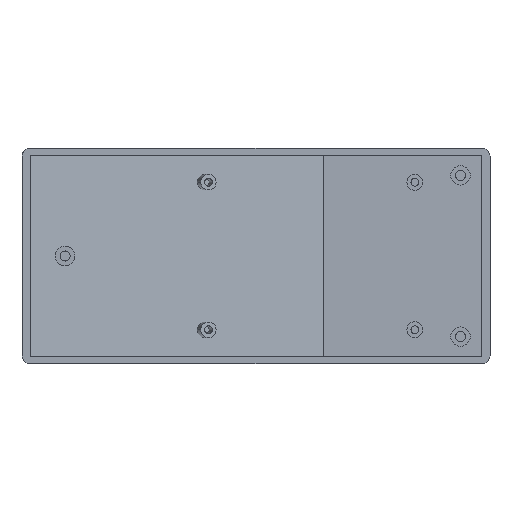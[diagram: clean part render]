
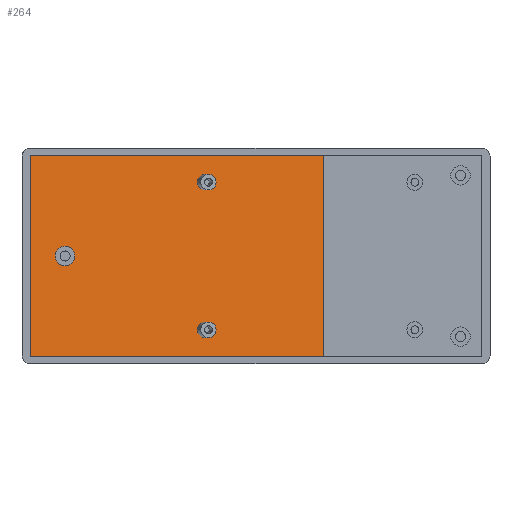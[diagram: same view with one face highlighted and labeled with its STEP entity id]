
A CAD part, front view. The second image highlights one B-rep face of the part: STEP entity #264.
In plain terms, the highlighted planar face has unit normal (0.199, -0.98, 0).
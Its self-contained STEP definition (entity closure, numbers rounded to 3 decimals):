
#53 = AXIS2_PLACEMENT_3D ( 'NONE', #251, #245, #243 ) ;
#113 = VERTEX_POINT ( 'NONE', #1800 ) ;
#128 = EDGE_LOOP ( 'NONE', ( #2285, #958, #2227, #527 ) ) ;
#150 = EDGE_CURVE ( 'NONE', #1053, #1627, #826, .T. ) ;
#164 = VERTEX_POINT ( 'NONE', #1945 ) ;
#167 = CARTESIAN_POINT ( 'NONE',  ( -51.65, -1.003, 0. ) ) ;
#193 = EDGE_LOOP ( 'NONE', ( #660, #1420 ) ) ;
#208 = CARTESIAN_POINT ( 'NONE',  ( -15.097, 6.4, -19. ) ) ;
#243 = DIRECTION ( 'NONE',  ( -0.98, -0.199, 0. ) ) ;
#245 = DIRECTION ( 'NONE',  ( 0.199, -0.98, 0. ) ) ;
#251 = CARTESIAN_POINT ( 'NONE',  ( -13.136, 6.797, 19. ) ) ;
#264 = ADVANCED_FACE ( 'NONE', ( #1460, #1525, #1396, #1356 ), #1723, .F. ) ;
#367 = CIRCLE ( 'NONE', #53, 2. ) ;
#383 = ORIENTED_EDGE ( 'NONE', *, *, #1216, .F. ) ;
#394 = EDGE_CURVE ( 'NONE', #714, #673, #732, .T. ) ;
#395 = CARTESIAN_POINT ( 'NONE',  ( -15.097, 6.4, 19. ) ) ;
#407 = VECTOR ( 'NONE', #992, 1000. ) ;
#412 = AXIS2_PLACEMENT_3D ( 'NONE', #476, #479, #468 ) ;
#422 = VECTOR ( 'NONE', #2095, 1000. ) ;
#447 = ORIENTED_EDGE ( 'NONE', *, *, #896, .F. ) ;
#466 = LINE ( 'NONE', #979, #407 ) ;
#468 = DIRECTION ( 'NONE',  ( -0.98, -0.199, 0. ) ) ;
#476 = CARTESIAN_POINT ( 'NONE',  ( -13.136, 6.797, 19. ) ) ;
#479 = DIRECTION ( 'NONE',  ( 0.199, -0.98, 0. ) ) ;
#493 = EDGE_LOOP ( 'NONE', ( #383, #1666 ) ) ;
#527 = ORIENTED_EDGE ( 'NONE', *, *, #1933, .T. ) ;
#552 = EDGE_LOOP ( 'NONE', ( #1484, #447 ) ) ;
#602 = DIRECTION ( 'NONE',  ( -0.98, -0.199, 0. ) ) ;
#604 = CARTESIAN_POINT ( 'NONE',  ( -58.1, -2.309, -26. ) ) ;
#660 = ORIENTED_EDGE ( 'NONE', *, *, #1767, .F. ) ;
#662 = VECTOR ( 'NONE', #1427, 1000. ) ;
#673 = VERTEX_POINT ( 'NONE', #937 ) ;
#714 = VERTEX_POINT ( 'NONE', #814 ) ;
#724 = VERTEX_POINT ( 'NONE', #799 ) ;
#732 = LINE ( 'NONE', #1432, #662 ) ;
#799 = CARTESIAN_POINT ( 'NONE',  ( 17.489, 13., -26. ) ) ;
#814 = CARTESIAN_POINT ( 'NONE',  ( -58.1, -2.309, -26. ) ) ;
#826 =( BOUNDED_CURVE ( )  B_SPLINE_CURVE ( 3, ( #1828, #1834, #2037, #1952 ),
 .UNSPECIFIED., .F., .T. ) 
 B_SPLINE_CURVE_WITH_KNOTS ( ( 4, 4 ),
 ( 0., 3.142 ),
 .UNSPECIFIED. ) 
 CURVE ( )  GEOMETRIC_REPRESENTATION_ITEM ( )  RATIONAL_B_SPLINE_CURVE ( ( 1., 0.333, 0.333, 1. ) ) 
 REPRESENTATION_ITEM ( '' )  );
#836 = EDGE_CURVE ( 'NONE', #724, #714, #1831, .T. ) ;
#896 = EDGE_CURVE ( 'NONE', #945, #164, #1648, .T. ) ;
#937 = CARTESIAN_POINT ( 'NONE',  ( -58.1, -2.309, 26. ) ) ;
#945 = VERTEX_POINT ( 'NONE', #395 ) ;
#958 = ORIENTED_EDGE ( 'NONE', *, *, #394, .F. ) ;
#979 = CARTESIAN_POINT ( 'NONE',  ( 17.489, 13., -26. ) ) ;
#992 = DIRECTION ( 'NONE',  ( 0., 0., 1. ) ) ;
#1011 = EDGE_CURVE ( 'NONE', #164, #945, #367, .T. ) ;
#1046 = VERTEX_POINT ( 'NONE', #208 ) ;
#1053 = VERTEX_POINT ( 'NONE', #167 ) ;
#1184 =( BOUNDED_CURVE ( )  B_SPLINE_CURVE ( 3, ( #1218, #1220, #1206, #1205 ),
 .UNSPECIFIED., .F., .T. ) 
 B_SPLINE_CURVE_WITH_KNOTS ( ( 4, 4 ),
 ( 3.142, 6.283 ),
 .UNSPECIFIED. ) 
 CURVE ( )  GEOMETRIC_REPRESENTATION_ITEM ( )  RATIONAL_B_SPLINE_CURVE ( ( 1., 0.333, 0.333, 1. ) ) 
 REPRESENTATION_ITEM ( '' )  );
#1205 = CARTESIAN_POINT ( 'NONE',  ( -51.65, -1.003, 0. ) ) ;
#1206 = CARTESIAN_POINT ( 'NONE',  ( -51.65, -1.003, 5. ) ) ;
#1216 = EDGE_CURVE ( 'NONE', #113, #1046, #2158, .T. ) ;
#1218 = CARTESIAN_POINT ( 'NONE',  ( -46.65, 0.01, 0. ) ) ;
#1220 = CARTESIAN_POINT ( 'NONE',  ( -46.65, 0.01, 5. ) ) ;
#1238 = VERTEX_POINT ( 'NONE', #2156 ) ;
#1312 = EDGE_CURVE ( 'NONE', #1238, #673, #2183, .T. ) ;
#1356 = FACE_OUTER_BOUND ( 'NONE', #128, .T. ) ;
#1396 = FACE_BOUND ( 'NONE', #193, .T. ) ;
#1420 = ORIENTED_EDGE ( 'NONE', *, *, #150, .F. ) ;
#1427 = DIRECTION ( 'NONE',  ( 0., 0., 1. ) ) ;
#1432 = CARTESIAN_POINT ( 'NONE',  ( -58.1, -2.309, -26. ) ) ;
#1460 = FACE_BOUND ( 'NONE', #552, .T. ) ;
#1475 = EDGE_CURVE ( 'NONE', #1046, #113, #2348, .T. ) ;
#1484 = ORIENTED_EDGE ( 'NONE', *, *, #1011, .F. ) ;
#1525 = FACE_BOUND ( 'NONE', #493, .T. ) ;
#1602 = CARTESIAN_POINT ( 'NONE',  ( -46.65, 0.01, 0. ) ) ;
#1627 = VERTEX_POINT ( 'NONE', #1602 ) ;
#1647 = VECTOR ( 'NONE', #602, 1000. ) ;
#1648 = CIRCLE ( 'NONE', #412, 2. ) ;
#1666 = ORIENTED_EDGE ( 'NONE', *, *, #1475, .F. ) ;
#1688 = DIRECTION ( 'NONE',  ( -0.98, -0.199, 0. ) ) ;
#1691 = DIRECTION ( 'NONE',  ( -0.199, 0.98, 0. ) ) ;
#1720 = CARTESIAN_POINT ( 'NONE',  ( -58.1, -2.309, -26. ) ) ;
#1723 = PLANE ( 'NONE',  #1791 ) ;
#1730 = AXIS2_PLACEMENT_3D ( 'NONE', #1821, #1820, #1819 ) ;
#1767 = EDGE_CURVE ( 'NONE', #1627, #1053, #1184, .T. ) ;
#1791 = AXIS2_PLACEMENT_3D ( 'NONE', #1720, #1691, #1688 ) ;
#1800 = CARTESIAN_POINT ( 'NONE',  ( -11.176, 7.194, -19. ) ) ;
#1819 = DIRECTION ( 'NONE',  ( -0.98, -0.199, 0. ) ) ;
#1820 = DIRECTION ( 'NONE',  ( 0.199, -0.98, 0. ) ) ;
#1821 = CARTESIAN_POINT ( 'NONE',  ( -13.136, 6.797, -19. ) ) ;
#1828 = CARTESIAN_POINT ( 'NONE',  ( -51.65, -1.003, 0. ) ) ;
#1831 = LINE ( 'NONE', #604, #1647 ) ;
#1834 = CARTESIAN_POINT ( 'NONE',  ( -51.65, -1.003, -5. ) ) ;
#1933 = EDGE_CURVE ( 'NONE', #724, #1238, #466, .T. ) ;
#1945 = CARTESIAN_POINT ( 'NONE',  ( -11.176, 7.194, 19. ) ) ;
#1952 = CARTESIAN_POINT ( 'NONE',  ( -46.65, 0.01, 0. ) ) ;
#2037 = CARTESIAN_POINT ( 'NONE',  ( -46.65, 0.01, -5. ) ) ;
#2095 = DIRECTION ( 'NONE',  ( -0.98, -0.199, 0. ) ) ;
#2096 = CARTESIAN_POINT ( 'NONE',  ( -58.1, -2.309, 26. ) ) ;
#2156 = CARTESIAN_POINT ( 'NONE',  ( 17.489, 13., 26. ) ) ;
#2158 = CIRCLE ( 'NONE', #2191, 2. ) ;
#2171 = DIRECTION ( 'NONE',  ( -0.98, -0.199, 0. ) ) ;
#2176 = DIRECTION ( 'NONE',  ( 0.199, -0.98, 0. ) ) ;
#2178 = CARTESIAN_POINT ( 'NONE',  ( -13.136, 6.797, -19. ) ) ;
#2183 = LINE ( 'NONE', #2096, #422 ) ;
#2191 = AXIS2_PLACEMENT_3D ( 'NONE', #2178, #2176, #2171 ) ;
#2227 = ORIENTED_EDGE ( 'NONE', *, *, #836, .F. ) ;
#2285 = ORIENTED_EDGE ( 'NONE', *, *, #1312, .T. ) ;
#2348 = CIRCLE ( 'NONE', #1730, 2. ) ;
